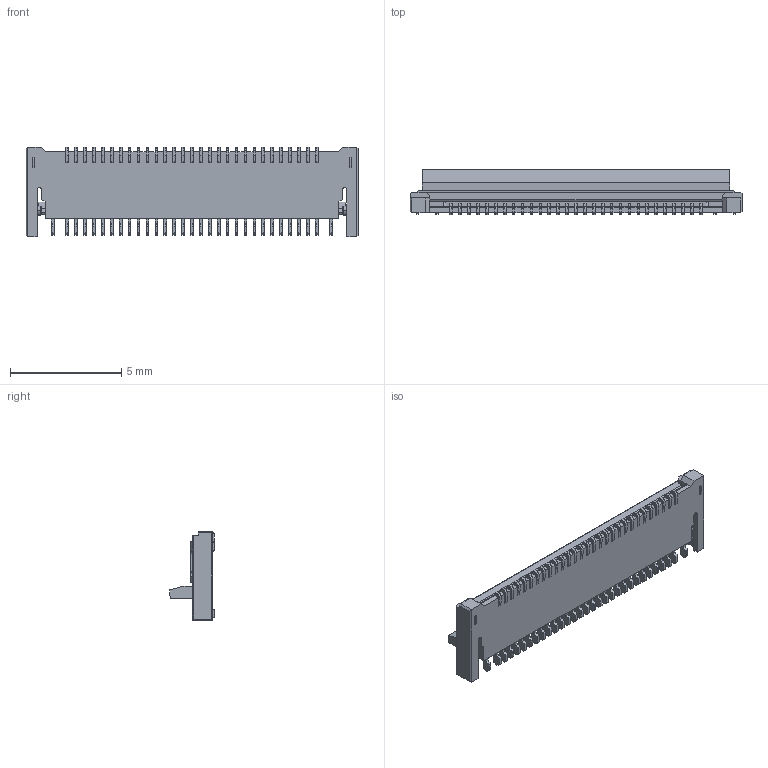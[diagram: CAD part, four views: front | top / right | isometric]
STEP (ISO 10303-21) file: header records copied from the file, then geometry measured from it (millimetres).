
FILE_DESCRIPTION (( 'STEP AP203' ), '1' );
FILE_NAME ('FFX2S-58A-R21CL-xx (open).STEP', '2010-11-03T04:57:44', ( '' ), ( '' ), 'SwSTEP 2.0', 'SolidWorks 2010', '' );
FILE_SCHEMA (( 'CONFIG_CONTROL_DESIGN' ));
Products named in the file (1): FFX2S-58A-R21CL-xx (open)
Bounding box: 14.9 x 2.02 x 4 mm (x, y, z)
Volume: 42.1 mm3; surface area: 257.9 mm2
Topology: 1 solids, 1 shells, 1917 faces, 5717 edges, 3807 vertices
Faces by surface type: plane 1369, cylinder 545, cone 3
Entity records: 64321 total; most frequent: CARTESIAN_POINT 11870, ORIENTED_EDGE 11434, DIRECTION 10392, EDGE_CURVE 5717, LINE 4610, VECTOR 4610, VERTEX_POINT 3807, AXIS2_PLACEMENT_3D 2891
